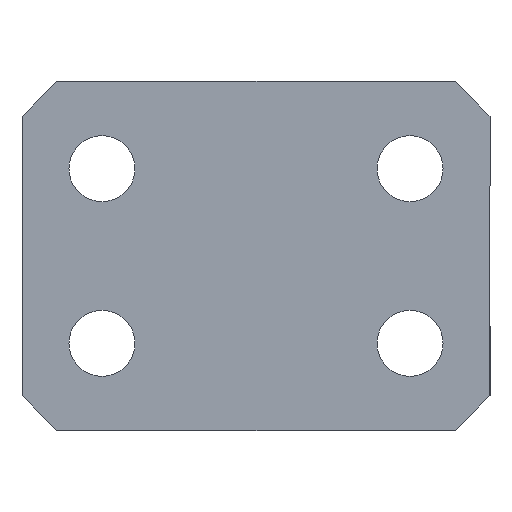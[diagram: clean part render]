
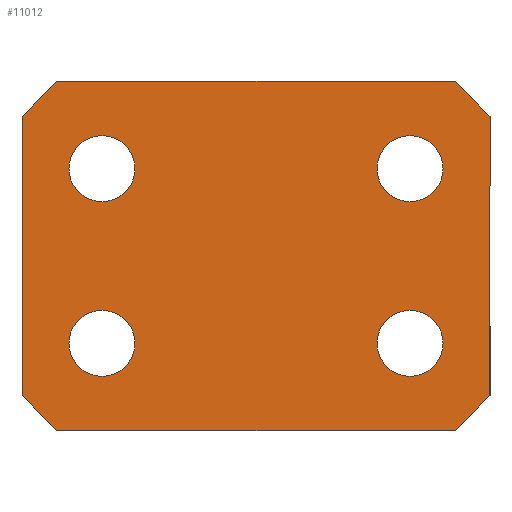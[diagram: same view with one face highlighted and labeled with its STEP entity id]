
A CAD part, front view. The second image highlights one B-rep face of the part: STEP entity #11012.
In plain terms, the highlighted planar face has unit normal (0, -1, 0).
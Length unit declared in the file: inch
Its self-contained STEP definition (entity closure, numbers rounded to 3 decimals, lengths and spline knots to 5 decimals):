
#65 = EDGE_CURVE ( 'NONE', #8528, #8709, #7141, .T. ) ;
#78 = EDGE_CURVE ( 'NONE', #8681, #8142, #7161, .T. ) ;
#177 = FACE_BOUND ( 'NONE', #15315, .T. ) ;
#178 = FACE_BOUND ( 'NONE', #15316, .T. ) ;
#179 = FACE_BOUND ( 'NONE', #15317, .T. ) ;
#180 = FACE_BOUND ( 'NONE', #15318, .T. ) ;
#181 = FACE_OUTER_BOUND ( 'NONE', #15321, .T. ) ;
#1069 = AXIS2_PLACEMENT_3D ( 'NONE', #16935, #16934, #16933 ) ;
#1075 = AXIS2_PLACEMENT_3D ( 'NONE', #16903, #16902, #16901 ) ;
#1079 = AXIS2_PLACEMENT_3D ( 'NONE', #16883, #16882, #16881 ) ;
#1086 = AXIS2_PLACEMENT_3D ( 'NONE', #16558, #16556, #16555 ) ;
#1087 = AXIS2_PLACEMENT_3D ( 'NONE', #16553, #16548, #16547 ) ;
#1088 = AXIS2_PLACEMENT_3D ( 'NONE', #16544, #16543, #16542 ) ;
#1089 = AXIS2_PLACEMENT_3D ( 'NONE', #16540, #16538, #16536 ) ;
#1594 = CIRCLE ( 'NONE', #15900, 0.09449 ) ;
#2045 = CIRCLE ( 'NONE', #1069, 0.09449 ) ;
#2071 = CIRCLE ( 'NONE', #1075, 0.09449 ) ;
#2089 = CIRCLE ( 'NONE', #1079, 0.09449 ) ;
#2154 = LINE ( 'NONE', #16592, #2156 ) ;
#2156 = VECTOR ( 'NONE', #16590, 39.37008 ) ;
#2167 = LINE ( 'NONE', #16574, #2168 ) ;
#2168 = VECTOR ( 'NONE', #16572, 39.37008 ) ;
#2174 = LINE ( 'NONE', #16561, #2175 ) ;
#2175 = VECTOR ( 'NONE', #16559, 39.37008 ) ;
#2176 = CIRCLE ( 'NONE', #1086, 0.09449 ) ;
#2178 = CIRCLE ( 'NONE', #1087, 0.09449 ) ;
#2181 = CIRCLE ( 'NONE', #1088, 0.09449 ) ;
#2183 = LINE ( 'NONE', #16535, #2187 ) ;
#2185 = CIRCLE ( 'NONE', #1089, 0.09449 ) ;
#2187 = VECTOR ( 'NONE', #16533, 39.37008 ) ;
#2188 = LINE ( 'NONE', #16531, #2189 ) ;
#2189 = VECTOR ( 'NONE', #16530, 39.37008 ) ;
#2190 = LINE ( 'NONE', #16528, #2191 ) ;
#2191 = VECTOR ( 'NONE', #16527, 39.37008 ) ;
#2772 = ORIENTED_EDGE ( 'NONE', *, *, #14983, .T. ) ;
#2773 = ORIENTED_EDGE ( 'NONE', *, *, #78, .T. ) ;
#2774 = ORIENTED_EDGE ( 'NONE', *, *, #14976, .T. ) ;
#5695 = CARTESIAN_POINT ( 'NONE',  ( 0.67, 0.25924, -0.85361 ) ) ;
#5736 = CARTESIAN_POINT ( 'NONE',  ( 0.67, 0.25924, -0.05361 ) ) ;
#5786 = CARTESIAN_POINT ( 'NONE',  ( -0.57, 0.25924, -0.95361 ) ) ;
#5816 = CARTESIAN_POINT ( 'NONE',  ( 0.57, 0.25924, 0.04639 ) ) ;
#5824 = CARTESIAN_POINT ( 'NONE',  ( -0.441, 0.25924, -0.60913 ) ) ;
#5866 = CARTESIAN_POINT ( 'NONE',  ( -0.441, 0.25924, -0.10913 ) ) ;
#5871 = CARTESIAN_POINT ( 'NONE',  ( -0.441, 0.25924, -0.2981 ) ) ;
#5906 = CARTESIAN_POINT ( 'NONE',  ( -0.441, 0.25924, -0.7981 ) ) ;
#5979 = CARTESIAN_POINT ( 'NONE',  ( 0.57, 0.25924, -0.95361 ) ) ;
#6026 = CARTESIAN_POINT ( 'NONE',  ( 0.441, 0.25924, -0.2981 ) ) ;
#6027 = CARTESIAN_POINT ( 'NONE',  ( 0.441, 0.25924, -0.10913 ) ) ;
#6054 = CARTESIAN_POINT ( 'NONE',  ( 0.441, 0.25924, -0.60913 ) ) ;
#6094 = CARTESIAN_POINT ( 'NONE',  ( -0.67, 0.25924, -0.05361 ) ) ;
#6176 = CARTESIAN_POINT ( 'NONE',  ( 0.441, 0.25924, -0.7981 ) ) ;
#6191 = CARTESIAN_POINT ( 'NONE',  ( -0.67, 0.25924, -0.85361 ) ) ;
#6212 = CARTESIAN_POINT ( 'NONE',  ( -0.57, 0.25924, 0.04639 ) ) ;
#7091 = ORIENTED_EDGE ( 'NONE', *, *, #14969, .F. ) ;
#7092 = ORIENTED_EDGE ( 'NONE', *, *, #14973, .T. ) ;
#7093 = ORIENTED_EDGE ( 'NONE', *, *, #65, .F. ) ;
#7094 = ORIENTED_EDGE ( 'NONE', *, *, #14982, .T. ) ;
#7095 = ORIENTED_EDGE ( 'NONE', *, *, #14981, .T. ) ;
#7096 = ORIENTED_EDGE ( 'NONE', *, *, #11288, .T. ) ;
#7097 = ORIENTED_EDGE ( 'NONE', *, *, #14980, .T. ) ;
#7098 = ORIENTED_EDGE ( 'NONE', *, *, #11280, .T. ) ;
#7099 = ORIENTED_EDGE ( 'NONE', *, *, #14979, .T. ) ;
#7100 = ORIENTED_EDGE ( 'NONE', *, *, #11268, .T. ) ;
#7101 = ORIENTED_EDGE ( 'NONE', *, *, #14978, .T. ) ;
#7102 = ORIENTED_EDGE ( 'NONE', *, *, #9060, .T. ) ;
#7103 = ORIENTED_EDGE ( 'NONE', *, *, #14977, .T. ) ;
#7141 = LINE ( 'NONE', #8111, #7142 ) ;
#7142 = VECTOR ( 'NONE', #8110, 39.37008 ) ;
#7161 = LINE ( 'NONE', #8064, #7163 ) ;
#7163 = VECTOR ( 'NONE', #8062, 39.37008 ) ;
#8062 = DIRECTION ( 'NONE',  ( -1., 0., 0. ) ) ;
#8064 = CARTESIAN_POINT ( 'NONE',  ( 0.67, 0.25924, 0.04639 ) ) ;
#8110 = DIRECTION ( 'NONE',  ( -1., 0., 0. ) ) ;
#8111 = CARTESIAN_POINT ( 'NONE',  ( 0.67, 0.25924, -0.95361 ) ) ;
#8142 = VERTEX_POINT ( 'NONE', #6212 ) ;
#8198 = VERTEX_POINT ( 'NONE', #6191 ) ;
#8318 = VERTEX_POINT ( 'NONE', #6176 ) ;
#8421 = VERTEX_POINT ( 'NONE', #6094 ) ;
#8457 = VERTEX_POINT ( 'NONE', #6054 ) ;
#8484 = VERTEX_POINT ( 'NONE', #6027 ) ;
#8485 = VERTEX_POINT ( 'NONE', #6026 ) ;
#8528 = VERTEX_POINT ( 'NONE', #5979 ) ;
#8595 = VERTEX_POINT ( 'NONE', #5906 ) ;
#8628 = VERTEX_POINT ( 'NONE', #5871 ) ;
#8633 = VERTEX_POINT ( 'NONE', #5866 ) ;
#8673 = VERTEX_POINT ( 'NONE', #5824 ) ;
#8681 = VERTEX_POINT ( 'NONE', #5816 ) ;
#8709 = VERTEX_POINT ( 'NONE', #5786 ) ;
#8755 = VERTEX_POINT ( 'NONE', #5736 ) ;
#8792 = VERTEX_POINT ( 'NONE', #5695 ) ;
#9060 = EDGE_CURVE ( 'NONE', #8628, #8633, #1594, .T. ) ;
#11012 = ADVANCED_FACE ( 'NONE', ( #177, #178, #179, #180, #181 ), #17586, .F. ) ;
#11268 = EDGE_CURVE ( 'NONE', #8485, #8484, #2045, .T. ) ;
#11280 = EDGE_CURVE ( 'NONE', #8318, #8457, #2071, .T. ) ;
#11288 = EDGE_CURVE ( 'NONE', #8595, #8673, #2089, .T. ) ;
#12857 = AXIS2_PLACEMENT_3D ( 'NONE', #17585, #17583, #17582 ) ;
#14165 = DIRECTION ( 'NONE',  ( 0., 0., 1. ) ) ;
#14166 = DIRECTION ( 'NONE',  ( 0., 1., 0. ) ) ;
#14167 = CARTESIAN_POINT ( 'NONE',  ( -0.441, 0.25924, -0.20361 ) ) ;
#14969 = EDGE_CURVE ( 'NONE', #8755, #8792, #2154, .T. ) ;
#14973 = EDGE_CURVE ( 'NONE', #8528, #8792, #2167, .T. ) ;
#14976 = EDGE_CURVE ( 'NONE', #8755, #8681, #2174, .T. ) ;
#14977 = EDGE_CURVE ( 'NONE', #8633, #8628, #2176, .T. ) ;
#14978 = EDGE_CURVE ( 'NONE', #8484, #8485, #2178, .T. ) ;
#14979 = EDGE_CURVE ( 'NONE', #8457, #8318, #2181, .T. ) ;
#14980 = EDGE_CURVE ( 'NONE', #8673, #8595, #2185, .T. ) ;
#14981 = EDGE_CURVE ( 'NONE', #8421, #8198, #2183, .T. ) ;
#14982 = EDGE_CURVE ( 'NONE', #8198, #8709, #2188, .T. ) ;
#14983 = EDGE_CURVE ( 'NONE', #8142, #8421, #2190, .T. ) ;
#15315 = EDGE_LOOP ( 'NONE', ( #7103, #7102 ) ) ;
#15316 = EDGE_LOOP ( 'NONE', ( #7101, #7100 ) ) ;
#15317 = EDGE_LOOP ( 'NONE', ( #7099, #7098 ) ) ;
#15318 = EDGE_LOOP ( 'NONE', ( #7097, #7096 ) ) ;
#15321 = EDGE_LOOP ( 'NONE', ( #7095, #7094, #7093, #7092, #7091, #2774, #2773, #2772 ) ) ;
#15900 = AXIS2_PLACEMENT_3D ( 'NONE', #14167, #14166, #14165 ) ;
#16527 = DIRECTION ( 'NONE',  ( -0.707, 0., -0.707 ) ) ;
#16528 = CARTESIAN_POINT ( 'NONE',  ( -0.57, 0.25924, 0.04639 ) ) ;
#16530 = DIRECTION ( 'NONE',  ( 0.707, 0., -0.707 ) ) ;
#16531 = CARTESIAN_POINT ( 'NONE',  ( -0.57, 0.25924, -0.95361 ) ) ;
#16533 = DIRECTION ( 'NONE',  ( 0., 0., -1. ) ) ;
#16535 = CARTESIAN_POINT ( 'NONE',  ( -0.67, 0.25924, -0.95361 ) ) ;
#16536 = DIRECTION ( 'NONE',  ( 0., 0., 1. ) ) ;
#16538 = DIRECTION ( 'NONE',  ( 0., 1., 0. ) ) ;
#16540 = CARTESIAN_POINT ( 'NONE',  ( -0.441, 0.25924, -0.70361 ) ) ;
#16542 = DIRECTION ( 'NONE',  ( 0., 0., 1. ) ) ;
#16543 = DIRECTION ( 'NONE',  ( 0., 1., 0. ) ) ;
#16544 = CARTESIAN_POINT ( 'NONE',  ( 0.441, 0.25924, -0.70361 ) ) ;
#16547 = DIRECTION ( 'NONE',  ( 0., 0., 1. ) ) ;
#16548 = DIRECTION ( 'NONE',  ( 0., 1., 0. ) ) ;
#16553 = CARTESIAN_POINT ( 'NONE',  ( 0.441, 0.25924, -0.20361 ) ) ;
#16555 = DIRECTION ( 'NONE',  ( 0., 0., 1. ) ) ;
#16556 = DIRECTION ( 'NONE',  ( 0., 1., 0. ) ) ;
#16558 = CARTESIAN_POINT ( 'NONE',  ( -0.441, 0.25924, -0.20361 ) ) ;
#16559 = DIRECTION ( 'NONE',  ( -0.707, 0., 0.707 ) ) ;
#16561 = CARTESIAN_POINT ( 'NONE',  ( 0.67, 0.25924, -0.05361 ) ) ;
#16572 = DIRECTION ( 'NONE',  ( 0.707, 0., 0.707 ) ) ;
#16574 = CARTESIAN_POINT ( 'NONE',  ( 0.67, 0.25924, -0.85361 ) ) ;
#16590 = DIRECTION ( 'NONE',  ( 0., 0., -1. ) ) ;
#16592 = CARTESIAN_POINT ( 'NONE',  ( 0.67, 0.25924, -0.95361 ) ) ;
#16881 = DIRECTION ( 'NONE',  ( 0., 0., 1. ) ) ;
#16882 = DIRECTION ( 'NONE',  ( 0., 1., 0. ) ) ;
#16883 = CARTESIAN_POINT ( 'NONE',  ( -0.441, 0.25924, -0.70361 ) ) ;
#16901 = DIRECTION ( 'NONE',  ( 0., 0., 1. ) ) ;
#16902 = DIRECTION ( 'NONE',  ( 0., 1., 0. ) ) ;
#16903 = CARTESIAN_POINT ( 'NONE',  ( 0.441, 0.25924, -0.70361 ) ) ;
#16933 = DIRECTION ( 'NONE',  ( 0., 0., 1. ) ) ;
#16934 = DIRECTION ( 'NONE',  ( 0., 1., 0. ) ) ;
#16935 = CARTESIAN_POINT ( 'NONE',  ( 0.441, 0.25924, -0.20361 ) ) ;
#17582 = DIRECTION ( 'NONE',  ( 0., 0., 1. ) ) ;
#17583 = DIRECTION ( 'NONE',  ( 0., 1., 0. ) ) ;
#17585 = CARTESIAN_POINT ( 'NONE',  ( 0.67, 0.25924, -0.95361 ) ) ;
#17586 = PLANE ( 'NONE',  #12857 ) ;
